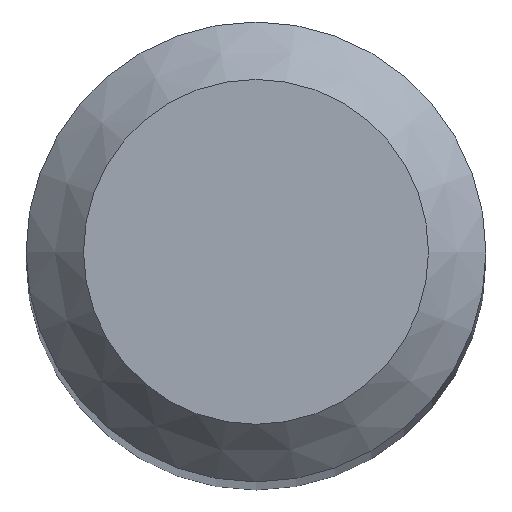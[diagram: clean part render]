
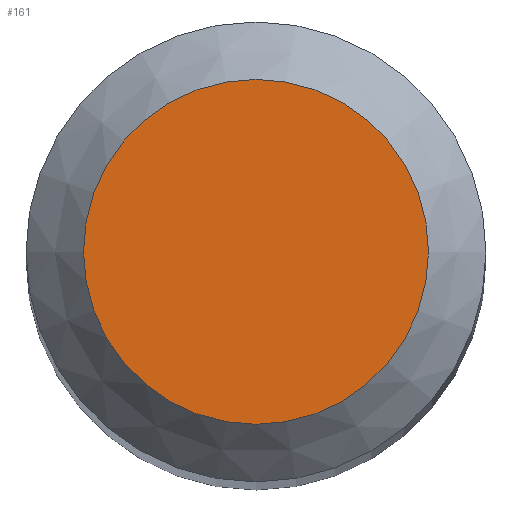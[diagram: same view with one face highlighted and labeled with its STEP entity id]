
A CAD part, top view. The second image highlights one B-rep face of the part: STEP entity #161.
In plain terms, the highlighted planar face has unit normal (0, 0, 1).
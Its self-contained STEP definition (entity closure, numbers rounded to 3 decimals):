
#145=CARTESIAN_POINT('',(0.0,0.,48.));
#146=DIRECTION('',(0.0,0.0,-1.0));
#147=DIRECTION('',(-1.0,0.0,0.0));
#148=AXIS2_PLACEMENT_3D('',#145,#146,#147);
#149=PLANE('',#148);
#150=CARTESIAN_POINT('',(-1.5,0.,48.));
#151=VERTEX_POINT('',#150);
#152=CARTESIAN_POINT('',(0.0,0.,48.));
#153=DIRECTION('',(0.0,0.0,-1.0));
#154=DIRECTION('',(-1.0,0.0,0.0));
#155=AXIS2_PLACEMENT_3D('',#152,#153,#154);
#156=CIRCLE('',#155,1.5);
#157=EDGE_CURVE('',#151,#151,#156,.T.);
#158=ORIENTED_EDGE('',*,*,#157,.F.);
#159=EDGE_LOOP('',(#158));
#160=FACE_OUTER_BOUND('',#159,.T.);
#161=ADVANCED_FACE('',(#160),#149,.F.);
